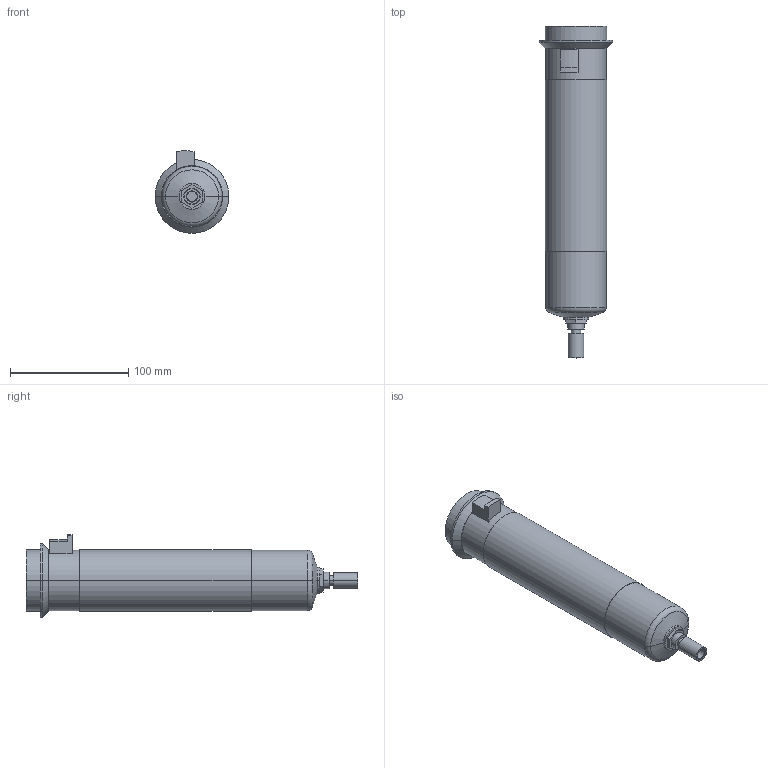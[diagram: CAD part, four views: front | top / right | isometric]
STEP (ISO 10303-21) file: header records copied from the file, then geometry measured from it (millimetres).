
FILE_DESCRIPTION((''),'2;1');
FILE_NAME('1827009603','2015-12-03T',('prr2cob'),(''),'PRO/ENGINEER BY PARAMETRIC TECHNOLOGY CORPORATION, 2012421','PRO/ENGINEER BY PARAMETRIC TECHNOLOGY CORPORATION, 2012421','');
FILE_SCHEMA(('CONFIG_CONTROL_DESIGN','SHAPE_APPEARANCE_LAYERS_GROUPS'));
Length unit declared in the file: millimetre
Products named in the file (1): 1827009603
Bounding box: 62.5 x 281 x 69.98 mm (x, y, z)
Volume: 523546.1 mm3; surface area: 48270.9 mm2
Topology: 2 solids, 2 shells, 53 faces, 110 edges, 70 vertices
Faces by surface type: cylinder 23, plane 22, cone 6, torus 2
Entity records: 1564 total; most frequent: DIRECTION 270, CARTESIAN_POINT 233, ORIENTED_EDGE 220, EDGE_CURVE 110, AXIS2_PLACEMENT_3D 107, COLOUR_RGB 105, VERTEX_POINT 70, EDGE_LOOP 62
